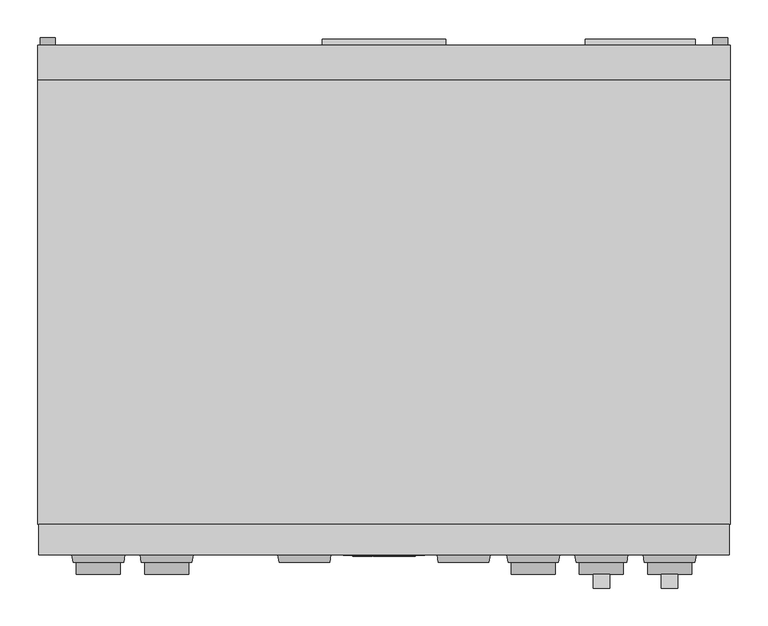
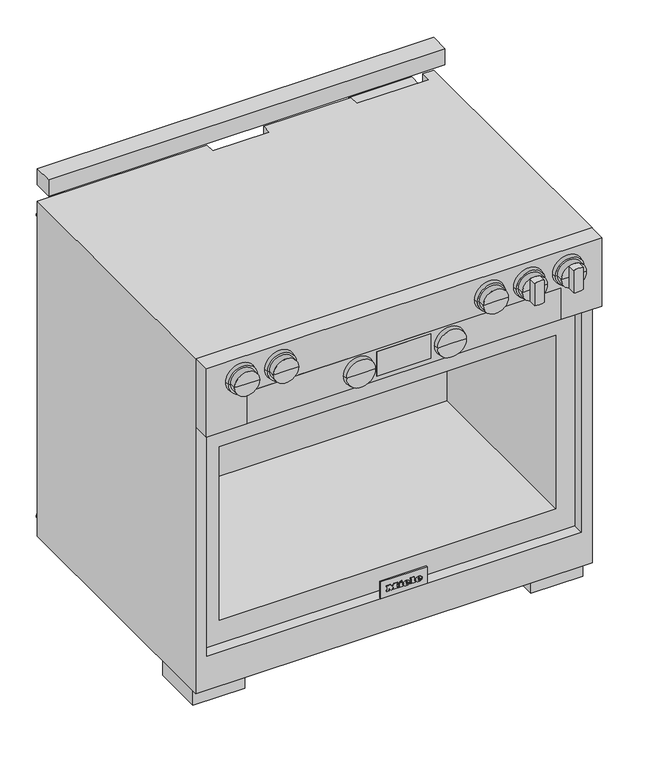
"""IFC4 building model written with IfcOpenShell, lengths in millimetres: proxy geometry, 11791450_USA_HR1135-3G_EDST-CLST : 25113581_USA_11791450_HR1135-3G_EDST-CLST."""

from ifc_helpers import new_model, si_unit, point, frame, frame_2d, origin, origin_with_axes, place, context, project, spatial, polyline, circle_curve, ellipse_curve, trimmed, segment, composite_curve, outline, extrude, faceted_brep, source, transform, mapped, element, save
from ifc_brep_helpers import plane_surface, cylinder_surface, revolved_surface, extruded_surface, advanced_brep


def specialty_equipment_633da77a(model_context):
    return source(origin(), model_context, "Body", "SolidModel", [
        extrude(outline(composite_curve([segment(trimmed(circle_curve(frame_2d((813.0, 287.0)), 29.0), [point((786.1671843, 276.0))], [point((786.1671843, 298.0))], False, "CARTESIAN"), True, "CONTINUOUS"), segment(polyline([(786.1671843, 298.0), (839.8328157, 298.0)]), True, "CONTINUOUS"), segment(trimmed(circle_curve(frame_2d((813.0, 287.0)), 29.0), [point((839.8328157, 298.0))], [point((839.8328157, 276.0))], False, "CARTESIAN"), True, "CONTINUOUS"), segment(polyline([(839.8328157, 276.0), (786.1671843, 276.0)]), True, "CONTINUOUS")], self_intersect=False)), frame((0.0, -717.0, 0.0), z_axis=(0.0, 1.0, 0.0), x_axis=(0.0, 0.0, 1.0)), (0.0, 0.0, 1.0), 18.0),
        advanced_brep(
        [(-377.0, -683.0, 813.0), (-348.0, -683.0, 813.0), (-406.0, -683.0, 813.0), (-406.0, -699.0, 813.0), (-348.0, -699.0, 813.0), (-377.0, -699.0, 813.0)],
        [
            (0, 1),
            (1, 2, circle_curve(frame((-377.0, -683.0, 813.0), z_axis=(0.0, 1.0, 0.0), x_axis=(1.0, 0.0, 0.0)), 29.0)),
            (2, 0),
            (2, 1, circle_curve(frame((-377.0, -683.0, 813.0), z_axis=(0.0, 1.0, 0.0), x_axis=(1.0, 0.0, 0.0)), 29.0)),
            (3, 4, circle_curve(frame((-377.0, -699.0, 813.0), z_axis=(0.0, -1.0, 0.0), x_axis=(1.0, 0.0, 0.0)), 29.0)),
            (4, 5),
            (5, 3),
            (4, 3, circle_curve(frame((-377.0, -699.0, 813.0), z_axis=(0.0, -1.0, 0.0), x_axis=(1.0, 0.0, 0.0)), 29.0)),
            (1, 4),
            (3, 2),
        ],
        [
            plane_surface(frame((-377.0, -683.0, 813.0), z_axis=(0.0, 1.0, 0.0), x_axis=(1.0, 0.0, 0.0))),
            plane_surface(frame((-377.0, -699.0, 813.0), z_axis=(0.0, -1.0, 0.0), x_axis=(1.0, 0.0, 0.0))),
            cylinder_surface(frame((-377.0, 751.3738435, 813.0), z_axis=(0.0, 1.0, 0.0), x_axis=(1.0, 0.0, 0.0)), 29.0),
        ],
        [
            (0, [[1, 2, 3]]),
            (0, [[-3, 4, -1]]),
            (1, [[5, 6, 7]]),
            (1, [[8, -7, -6]]),
            (2, [[-2, 9, -5, 10]]),
            (2, [[-4, -10, -8, -9]]),
        ],
    ),
        advanced_brep(
        [(-287.0, -683.0, 813.0), (-258.0, -683.0, 813.0), (-316.0, -683.0, 813.0), (-316.0, -699.0, 813.0), (-258.0, -699.0, 813.0), (-287.0, -699.0, 813.0)],
        [
            (0, 1),
            (1, 2, circle_curve(frame((-287.0, -683.0, 813.0), z_axis=(0.0, 1.0, 0.0), x_axis=(1.0, 0.0, 0.0)), 29.0)),
            (2, 0),
            (2, 1, circle_curve(frame((-287.0, -683.0, 813.0), z_axis=(0.0, 1.0, 0.0), x_axis=(1.0, 0.0, 0.0)), 29.0)),
            (3, 4, circle_curve(frame((-287.0, -699.0, 813.0), z_axis=(0.0, -1.0, 0.0), x_axis=(1.0, 0.0, 0.0)), 29.0)),
            (4, 5),
            (5, 3),
            (4, 3, circle_curve(frame((-287.0, -699.0, 813.0), z_axis=(0.0, -1.0, 0.0), x_axis=(1.0, 0.0, 0.0)), 29.0)),
            (1, 4),
            (3, 2),
        ],
        [
            plane_surface(frame((-287.0, -683.0, 813.0), z_axis=(0.0, 1.0, 0.0), x_axis=(1.0, 0.0, 0.0))),
            plane_surface(frame((-287.0, -699.0, 813.0), z_axis=(0.0, -1.0, 0.0), x_axis=(1.0, 0.0, 0.0))),
            cylinder_surface(frame((-287.0, 751.3738435, 813.0), z_axis=(0.0, 1.0, 0.0), x_axis=(1.0, 0.0, 0.0)), 29.0),
        ],
        [
            (0, [[1, 2, 3]]),
            (0, [[-3, 4, -1]]),
            (1, [[5, 6, 7]]),
            (1, [[8, -7, -6]]),
            (2, [[-2, 9, -5, 10]]),
            (2, [[-4, -10, -8, -9]]),
        ],
    ),
        advanced_brep(
        [(197.0, -683.0, 813.0), (226.0, -683.0, 813.0), (168.0, -683.0, 813.0), (168.0, -699.0, 813.0), (226.0, -699.0, 813.0), (197.0, -699.0, 813.0)],
        [
            (0, 1),
            (1, 2, circle_curve(frame((197.0, -683.0, 813.0), z_axis=(0.0, 1.0, 0.0), x_axis=(1.0, 0.0, 0.0)), 29.0)),
            (2, 0),
            (2, 1, circle_curve(frame((197.0, -683.0, 813.0), z_axis=(0.0, 1.0, 0.0), x_axis=(1.0, 0.0, 0.0)), 29.0)),
            (3, 4, circle_curve(frame((197.0, -699.0, 813.0), z_axis=(0.0, -1.0, 0.0), x_axis=(1.0, 0.0, 0.0)), 29.0)),
            (4, 5),
            (5, 3),
            (4, 3, circle_curve(frame((197.0, -699.0, 813.0), z_axis=(0.0, -1.0, 0.0), x_axis=(1.0, 0.0, 0.0)), 29.0)),
            (1, 4),
            (3, 2),
        ],
        [
            plane_surface(frame((197.0, -683.0, 813.0), z_axis=(0.0, 1.0, 0.0), x_axis=(1.0, 0.0, 0.0))),
            plane_surface(frame((197.0, -699.0, 813.0), z_axis=(0.0, -1.0, 0.0), x_axis=(1.0, 0.0, 0.0))),
            cylinder_surface(frame((197.0, 751.3738435, 813.0), z_axis=(0.0, 1.0, 0.0), x_axis=(1.0, 0.0, 0.0)), 29.0),
        ],
        [
            (0, [[1, 2, 3]]),
            (0, [[-3, 4, -1]]),
            (1, [[5, 6, 7]]),
            (1, [[8, -7, -6]]),
            (2, [[-2, 9, -5, 10]]),
            (2, [[-4, -10, -8, -9]]),
        ],
    ),
        advanced_brep(
        [(287.0, -683.0, 813.0), (316.0, -683.0, 813.0), (258.0, -683.0, 813.0), (258.0, -699.0, 813.0), (316.0, -699.0, 813.0), (287.0, -699.0, 813.0)],
        [
            (0, 1),
            (1, 2, circle_curve(frame((287.0, -683.0, 813.0), z_axis=(0.0, 1.0, 0.0), x_axis=(1.0, 0.0, 0.0)), 29.0)),
            (2, 0),
            (2, 1, circle_curve(frame((287.0, -683.0, 813.0), z_axis=(0.0, 1.0, 0.0), x_axis=(1.0, 0.0, 0.0)), 29.0)),
            (3, 4, circle_curve(frame((287.0, -699.0, 813.0), z_axis=(0.0, -1.0, 0.0), x_axis=(1.0, 0.0, 0.0)), 29.0)),
            (4, 5),
            (5, 3),
            (4, 3, circle_curve(frame((287.0, -699.0, 813.0), z_axis=(0.0, -1.0, 0.0), x_axis=(1.0, 0.0, 0.0)), 29.0)),
            (1, 4),
            (3, 2),
        ],
        [
            plane_surface(frame((287.0, -683.0, 813.0), z_axis=(0.0, 1.0, 0.0), x_axis=(1.0, 0.0, 0.0))),
            plane_surface(frame((287.0, -699.0, 813.0), z_axis=(0.0, -1.0, 0.0), x_axis=(1.0, 0.0, 0.0))),
            cylinder_surface(frame((287.0, 751.3738435, 813.0), z_axis=(0.0, 1.0, 0.0), x_axis=(1.0, 0.0, 0.0)), 29.0),
        ],
        [
            (0, [[1, 2, 3]]),
            (0, [[-3, 4, -1]]),
            (1, [[5, 6, 7]]),
            (1, [[8, -7, -6]]),
            (2, [[-2, 9, -5, 10]]),
            (2, [[-4, -10, -8, -9]]),
        ],
    ),
        extrude(outline(composite_curve([segment(polyline([(786.1671843, 388.0), (839.8328157, 388.0)]), True, "CONTINUOUS"), segment(trimmed(circle_curve(frame_2d((813.0, 377.0)), 29.0), [point((839.8328157, 388.0))], [point((839.8328157, 366.0))], False, "CARTESIAN"), True, "CONTINUOUS"), segment(polyline([(839.8328157, 366.0), (786.1671843, 366.0)]), True, "CONTINUOUS"), segment(trimmed(circle_curve(frame_2d((813.0, 377.0)), 29.0), [point((786.1671843, 366.0))], [point((786.1671843, 388.0))], False, "CARTESIAN"), True, "CONTINUOUS")], self_intersect=False)), frame((0.0, -717.0, 0.0), z_axis=(0.0, 1.0, 0.0), x_axis=(0.0, 0.0, 1.0)), (0.0, 0.0, 1.0), 18.0),
        advanced_brep(
        [(377.0, -683.0, 813.0), (406.0, -683.0, 813.0), (348.0, -683.0, 813.0), (348.0, -699.0, 813.0), (406.0, -699.0, 813.0), (377.0, -699.0, 813.0)],
        [
            (0, 1),
            (1, 2, circle_curve(frame((377.0, -683.0, 813.0), z_axis=(0.0, 1.0, 0.0), x_axis=(1.0, 0.0, 0.0)), 29.0)),
            (2, 0),
            (2, 1, circle_curve(frame((377.0, -683.0, 813.0), z_axis=(0.0, 1.0, 0.0), x_axis=(1.0, 0.0, 0.0)), 29.0)),
            (3, 4, circle_curve(frame((377.0, -699.0, 813.0), z_axis=(0.0, -1.0, 0.0), x_axis=(1.0, 0.0, 0.0)), 29.0)),
            (4, 5),
            (5, 3),
            (4, 3, circle_curve(frame((377.0, -699.0, 813.0), z_axis=(0.0, -1.0, 0.0), x_axis=(1.0, 0.0, 0.0)), 29.0)),
            (1, 4),
            (3, 2),
        ],
        [
            plane_surface(frame((377.0, -683.0, 813.0), z_axis=(0.0, 1.0, 0.0), x_axis=(1.0, 0.0, 0.0))),
            plane_surface(frame((377.0, -699.0, 813.0), z_axis=(0.0, -1.0, 0.0), x_axis=(1.0, 0.0, 0.0))),
            cylinder_surface(frame((377.0, 751.3738435, 813.0), z_axis=(0.0, 1.0, 0.0), x_axis=(1.0, 0.0, 0.0)), 29.0),
        ],
        [
            (0, [[1, 2, 3]]),
            (0, [[-3, 4, -1]]),
            (1, [[5, 6, 7]]),
            (1, [[8, -7, -6]]),
            (2, [[-2, 9, -5, 10]]),
            (2, [[-4, -10, -8, -9]]),
        ],
    ),
        extrude(outline(polyline([(-62.5, -671.0), (62.5, -671.0), (62.5, -672.0), (-62.5, -672.0), (-62.5, -671.0)])), frame((0.0, 0.0, 705.0), z_axis=(0.0, 0.0, 1.0), x_axis=(1.0, 0.0, 0.0)), (0.0, 0.0, 1.0), 60.0),
        extrude(outline(polyline([(772.0, 363.0), (772.0, -363.0), (695.0, -363.0), (695.0, 363.0), (772.0, 363.0)]), holes=[polyline([(765.0, 62.5), (705.0, 62.5), (705.0, -62.5), (765.0, -62.5), (765.0, 62.5)])]), frame((0.0, -672.5, 0.0), z_axis=(0.0, 1.0, 0.0), x_axis=(0.0, 0.0, 1.0)), (0.0, 0.0, 1.0), 5.8),
        faceted_brep([(456.0, -673.0, 862.0), (-456.0, -673.0, 862.0), (-456.0, -673.0, 695.0), (-363.0, -673.0, 695.0), (-363.0, -673.0, 772.0), (363.0, -673.0, 772.0), (363.0, -673.0, 695.0), (456.0, -673.0, 695.0), (456.0, -633.0, 862.0), (456.0, -633.0, 695.0), (-456.0, -633.0, 695.0), (-456.0, -633.0, 862.0), (363.0, -666.7, 695.0), (-363.0, -666.7, 695.0), (363.0, -666.7, 772.0), (-363.0, -666.7, 772.0)], [[[0, 1, 2, 3, 4, 5, 6, 7]], [[8, 9, 10, 11]], [[0, 7, 9, 8]], [[10, 9, 7, 6, 12, 13, 3, 2]], [[2, 1, 11, 10]], [[1, 0, 8, 11]], [[14, 15, 13, 12]], [[14, 12, 6, 5]], [[13, 15, 4, 3]], [[15, 14, 5, 4]]]),
        advanced_brep(
        [(-138.2367302, -683.0, 733.0), (-71.7632698, -683.0, 733.0), (-105.0, -683.0, 733.0), (-140.0, -673.0, 733.0), (-70.0, -673.0, 733.0), (-105.0, -673.0, 733.0)],
        [
            (0, 1, circle_curve(frame((-105.0, -683.0, 733.0), z_axis=(0.0, -1.0, 0.0), x_axis=(1.0, 0.0, 0.0)), 33.2367302)),
            (1, 2),
            (2, 0),
            (1, 0, circle_curve(frame((-105.0, -683.0, 733.0), z_axis=(0.0, -1.0, 0.0), x_axis=(1.0, 0.0, 0.0)), 33.2367302)),
            (3, 4, circle_curve(frame((-105.0, -673.0, 733.0), z_axis=(0.0, -1.0, 0.0), x_axis=(1.0, 0.0, 0.0)), 35.0)),
            (4, 1),
            (0, 3),
            (4, 3, circle_curve(frame((-105.0, -673.0, 733.0), z_axis=(0.0, -1.0, 0.0), x_axis=(1.0, 0.0, 0.0)), 35.0)),
            (5, 4),
            (3, 5),
        ],
        [
            plane_surface(frame((-105.0, -683.0, 733.0), z_axis=(0.0, -1.0, 0.0), x_axis=(1.0, 0.0, 0.0))),
            revolved_surface(polyline([(-71.7632698, -683.0, 733.0), (-70.0, -673.0, 733.0)]), (-105.0, 751.3738435, 733.0), (0.0, 1.0, 0.0)),
            plane_surface(frame((-105.0, -673.0, 733.0), z_axis=(0.0, 1.0, 0.0), x_axis=(1.0, 0.0, 0.0))),
        ],
        [
            (0, [[1, 2, 3]]),
            (0, [[4, -3, -2]]),
            (1, [[5, 6, -1, 7]]),
            (1, [[8, -7, -4, -6]]),
            (2, [[9, -5, 10]]),
            (2, [[-10, -8, -9]]),
        ],
    ),
        advanced_brep(
        [(71.7632698, -683.0, 733.0), (138.2367302, -683.0, 733.0), (105.0, -683.0, 733.0), (70.0, -673.0, 733.0), (140.0, -673.0, 733.0), (105.0, -673.0, 733.0)],
        [
            (0, 1, circle_curve(frame((105.0, -683.0, 733.0), z_axis=(0.0, -1.0, 0.0), x_axis=(1.0, 0.0, 0.0)), 33.2367302)),
            (1, 2),
            (2, 0),
            (1, 0, circle_curve(frame((105.0, -683.0, 733.0), z_axis=(0.0, -1.0, 0.0), x_axis=(1.0, 0.0, 0.0)), 33.2367302)),
            (3, 4, circle_curve(frame((105.0, -673.0, 733.0), z_axis=(0.0, -1.0, 0.0), x_axis=(1.0, 0.0, 0.0)), 35.0)),
            (4, 1),
            (0, 3),
            (4, 3, circle_curve(frame((105.0, -673.0, 733.0), z_axis=(0.0, -1.0, 0.0), x_axis=(1.0, 0.0, 0.0)), 35.0)),
            (5, 4),
            (3, 5),
        ],
        [
            plane_surface(frame((105.0, -683.0, 733.0), z_axis=(0.0, -1.0, 0.0), x_axis=(1.0, 0.0, 0.0))),
            revolved_surface(polyline([(138.2367302, -683.0, 733.0), (140.0, -673.0, 733.0)]), (105.0, 751.3738435, 733.0), (0.0, 1.0, 0.0)),
            plane_surface(frame((105.0, -673.0, 733.0), z_axis=(0.0, 1.0, 0.0), x_axis=(1.0, 0.0, 0.0))),
        ],
        [
            (0, [[1, 2, 3]]),
            (0, [[4, -3, -2]]),
            (1, [[5, 6, -1, 7]]),
            (1, [[8, -7, -4, -6]]),
            (2, [[9, -5, 10]]),
            (2, [[-10, -8, -9]]),
        ],
    ),
        advanced_brep(
        [(-410.2367302, -683.0, 813.0), (-343.7632698, -683.0, 813.0), (-377.0, -683.0, 813.0), (-412.0, -673.0, 813.0), (-342.0, -673.0, 813.0), (-377.0, -673.0, 813.0)],
        [
            (0, 1, circle_curve(frame((-377.0, -683.0, 813.0), z_axis=(0.0, -1.0, 0.0), x_axis=(1.0, 0.0, 0.0)), 33.2367302)),
            (1, 2),
            (2, 0),
            (1, 0, circle_curve(frame((-377.0, -683.0, 813.0), z_axis=(0.0, -1.0, 0.0), x_axis=(1.0, 0.0, 0.0)), 33.2367302)),
            (3, 4, circle_curve(frame((-377.0, -673.0, 813.0), z_axis=(0.0, -1.0, 0.0), x_axis=(1.0, 0.0, 0.0)), 35.0)),
            (4, 1),
            (0, 3),
            (4, 3, circle_curve(frame((-377.0, -673.0, 813.0), z_axis=(0.0, -1.0, 0.0), x_axis=(1.0, 0.0, 0.0)), 35.0)),
            (5, 4),
            (3, 5),
        ],
        [
            plane_surface(frame((-377.0, -683.0, 813.0), z_axis=(0.0, -1.0, 0.0), x_axis=(1.0, 0.0, 0.0))),
            revolved_surface(polyline([(-343.7632698, -683.0, 813.0), (-342.0, -673.0, 813.0)]), (-377.0, 751.3738435, 813.0), (0.0, 1.0, 0.0)),
            plane_surface(frame((-377.0, -673.0, 813.0), z_axis=(0.0, 1.0, 0.0), x_axis=(1.0, 0.0, 0.0))),
        ],
        [
            (0, [[1, 2, 3]]),
            (0, [[4, -3, -2]]),
            (1, [[5, 6, -1, 7]]),
            (1, [[8, -7, -4, -6]]),
            (2, [[9, -5, 10]]),
            (2, [[-10, -8, -9]]),
        ],
    ),
        advanced_brep(
        [(-320.2367302, -683.0, 813.0), (-253.7632698, -683.0, 813.0), (-287.0, -683.0, 813.0), (-322.0, -673.0, 813.0), (-252.0, -673.0, 813.0), (-287.0, -673.0, 813.0)],
        [
            (0, 1, circle_curve(frame((-287.0, -683.0, 813.0), z_axis=(0.0, -1.0, 0.0), x_axis=(1.0, 0.0, 0.0)), 33.2367302)),
            (1, 2),
            (2, 0),
            (1, 0, circle_curve(frame((-287.0, -683.0, 813.0), z_axis=(0.0, -1.0, 0.0), x_axis=(1.0, 0.0, 0.0)), 33.2367302)),
            (3, 4, circle_curve(frame((-287.0, -673.0, 813.0), z_axis=(0.0, -1.0, 0.0), x_axis=(1.0, 0.0, 0.0)), 35.0)),
            (4, 1),
            (0, 3),
            (4, 3, circle_curve(frame((-287.0, -673.0, 813.0), z_axis=(0.0, -1.0, 0.0), x_axis=(1.0, 0.0, 0.0)), 35.0)),
            (5, 4),
            (3, 5),
        ],
        [
            plane_surface(frame((-287.0, -683.0, 813.0), z_axis=(0.0, -1.0, 0.0), x_axis=(1.0, 0.0, 0.0))),
            revolved_surface(polyline([(-253.7632698, -683.0, 813.0), (-252.0, -673.0, 813.0)]), (-287.0, 751.3738435, 813.0), (0.0, 1.0, 0.0)),
            plane_surface(frame((-287.0, -673.0, 813.0), z_axis=(0.0, 1.0, 0.0), x_axis=(1.0, 0.0, 0.0))),
        ],
        [
            (0, [[1, 2, 3]]),
            (0, [[4, -3, -2]]),
            (1, [[5, 6, -1, 7]]),
            (1, [[8, -7, -4, -6]]),
            (2, [[9, -5, 10]]),
            (2, [[-10, -8, -9]]),
        ],
    ),
        advanced_brep(
        [(163.7632698, -683.0, 813.0), (230.2367302, -683.0, 813.0), (197.0, -683.0, 813.0), (162.0, -673.0, 813.0), (232.0, -673.0, 813.0), (197.0, -673.0, 813.0)],
        [
            (0, 1, circle_curve(frame((197.0, -683.0, 813.0), z_axis=(0.0, -1.0, 0.0), x_axis=(1.0, 0.0, 0.0)), 33.2367302)),
            (1, 2),
            (2, 0),
            (1, 0, circle_curve(frame((197.0, -683.0, 813.0), z_axis=(0.0, -1.0, 0.0), x_axis=(1.0, 0.0, 0.0)), 33.2367302)),
            (3, 4, circle_curve(frame((197.0, -673.0, 813.0), z_axis=(0.0, -1.0, 0.0), x_axis=(1.0, 0.0, 0.0)), 35.0)),
            (4, 1),
            (0, 3),
            (4, 3, circle_curve(frame((197.0, -673.0, 813.0), z_axis=(0.0, -1.0, 0.0), x_axis=(1.0, 0.0, 0.0)), 35.0)),
            (5, 4),
            (3, 5),
        ],
        [
            plane_surface(frame((197.0, -683.0, 813.0), z_axis=(0.0, -1.0, 0.0), x_axis=(1.0, 0.0, 0.0))),
            revolved_surface(polyline([(230.2367302, -683.0, 813.0), (232.0, -673.0, 813.0)]), (197.0, 751.3738435, 813.0), (0.0, 1.0, 0.0)),
            plane_surface(frame((197.0, -673.0, 813.0), z_axis=(0.0, 1.0, 0.0), x_axis=(1.0, 0.0, 0.0))),
        ],
        [
            (0, [[1, 2, 3]]),
            (0, [[4, -3, -2]]),
            (1, [[5, 6, -1, 7]]),
            (1, [[8, -7, -4, -6]]),
            (2, [[9, -5, 10]]),
            (2, [[-10, -8, -9]]),
        ],
    ),
        advanced_brep(
        [(253.7632698, -683.0, 813.0), (320.2367302, -683.0, 813.0), (287.0, -683.0, 813.0), (252.0, -673.0, 813.0), (322.0, -673.0, 813.0), (287.0, -673.0, 813.0)],
        [
            (0, 1, circle_curve(frame((287.0, -683.0, 813.0), z_axis=(0.0, -1.0, 0.0), x_axis=(1.0, 0.0, 0.0)), 33.2367302)),
            (1, 2),
            (2, 0),
            (1, 0, circle_curve(frame((287.0, -683.0, 813.0), z_axis=(0.0, -1.0, 0.0), x_axis=(1.0, 0.0, 0.0)), 33.2367302)),
            (3, 4, circle_curve(frame((287.0, -673.0, 813.0), z_axis=(0.0, -1.0, 0.0), x_axis=(1.0, 0.0, 0.0)), 35.0)),
            (4, 1),
            (0, 3),
            (4, 3, circle_curve(frame((287.0, -673.0, 813.0), z_axis=(0.0, -1.0, 0.0), x_axis=(1.0, 0.0, 0.0)), 35.0)),
            (5, 4),
            (3, 5),
        ],
        [
            plane_surface(frame((287.0, -683.0, 813.0), z_axis=(0.0, -1.0, 0.0), x_axis=(1.0, 0.0, 0.0))),
            revolved_surface(polyline([(320.2367302, -683.0, 813.0), (322.0, -673.0, 813.0)]), (287.0, 751.3738435, 813.0), (0.0, 1.0, 0.0)),
            plane_surface(frame((287.0, -673.0, 813.0), z_axis=(0.0, 1.0, 0.0), x_axis=(1.0, 0.0, 0.0))),
        ],
        [
            (0, [[1, 2, 3]]),
            (0, [[4, -3, -2]]),
            (1, [[5, 6, -1, 7]]),
            (1, [[8, -7, -4, -6]]),
            (2, [[9, -5, 10]]),
            (2, [[-10, -8, -9]]),
        ],
    ),
        advanced_brep(
        [(343.7632698, -683.0, 813.0), (410.2367302, -683.0, 813.0), (377.0, -683.0, 813.0), (342.0, -673.0, 813.0), (412.0, -673.0, 813.0), (377.0, -673.0, 813.0)],
        [
            (0, 1, circle_curve(frame((377.0, -683.0, 813.0), z_axis=(0.0, -1.0, 0.0), x_axis=(1.0, 0.0, 0.0)), 33.2367302)),
            (1, 2),
            (2, 0),
            (1, 0, circle_curve(frame((377.0, -683.0, 813.0), z_axis=(0.0, -1.0, 0.0), x_axis=(1.0, 0.0, 0.0)), 33.2367302)),
            (3, 4, circle_curve(frame((377.0, -673.0, 813.0), z_axis=(0.0, -1.0, 0.0), x_axis=(1.0, 0.0, 0.0)), 35.0)),
            (4, 1),
            (0, 3),
            (4, 3, circle_curve(frame((377.0, -673.0, 813.0), z_axis=(0.0, -1.0, 0.0), x_axis=(1.0, 0.0, 0.0)), 35.0)),
            (5, 4),
            (3, 5),
        ],
        [
            plane_surface(frame((377.0, -683.0, 813.0), z_axis=(0.0, -1.0, 0.0), x_axis=(1.0, 0.0, 0.0))),
            revolved_surface(polyline([(410.2367302, -683.0, 813.0), (412.0, -673.0, 813.0)]), (377.0, 751.3738435, 813.0), (0.0, 1.0, 0.0)),
            plane_surface(frame((377.0, -673.0, 813.0), z_axis=(0.0, 1.0, 0.0), x_axis=(1.0, 0.0, 0.0))),
        ],
        [
            (0, [[1, 2, 3]]),
            (0, [[4, -3, -2]]),
            (1, [[5, 6, -1, 7]]),
            (1, [[8, -7, -4, -6]]),
            (2, [[9, -5, 10]]),
            (2, [[-10, -8, -9]]),
        ],
    ),
        extrude(outline(composite_curve([segment(trimmed(circle_curve(frame_2d((822.0, 444.0)), 10.0), [point((822.0, 454.0))], [point((822.0, 434.0))], False, "CARTESIAN"), True, "CONTINUOUS"), segment(trimmed(circle_curve(frame_2d((822.0, 444.0)), 10.0), [point((822.0, 434.0))], [point((822.0, 454.0))], False, "CARTESIAN"), True, "CONTINUOUS")], self_intersect=False)), frame((0.0, 0.0, 0.0), z_axis=(0.0, 1.0, 0.0), x_axis=(0.0, 0.0, 1.0)), (0.0, 0.0, 1.0), 10.0),
        extrude(outline(composite_curve([segment(trimmed(circle_curve(frame_2d((87.0, 444.0)), 10.0), [point((87.0, 454.0))], [point((87.0, 434.0))], False, "CARTESIAN"), True, "CONTINUOUS"), segment(trimmed(circle_curve(frame_2d((87.0, 444.0)), 10.0), [point((87.0, 434.0))], [point((87.0, 454.0))], False, "CARTESIAN"), True, "CONTINUOUS")], self_intersect=False)), frame((0.0, 0.0, 0.0), z_axis=(0.0, 1.0, 0.0), x_axis=(0.0, 0.0, 1.0)), (0.0, 0.0, 1.0), 10.0),
        extrude(outline(composite_curve([segment(trimmed(circle_curve(frame_2d((822.0, -444.0)), 10.0), [point((822.0, -434.0))], [point((822.0, -454.0))], False, "CARTESIAN"), True, "CONTINUOUS"), segment(trimmed(circle_curve(frame_2d((822.0, -444.0)), 10.0), [point((822.0, -454.0))], [point((822.0, -434.0))], False, "CARTESIAN"), True, "CONTINUOUS")], self_intersect=False)), frame((0.0, 0.0, 0.0), z_axis=(0.0, 1.0, 0.0), x_axis=(0.0, 0.0, 1.0)), (0.0, 0.0, 1.0), 10.0),
        extrude(outline(composite_curve([segment(trimmed(circle_curve(frame_2d((87.0, -444.0)), 10.0), [point((87.0, -434.0))], [point((87.0, -454.0))], False, "CARTESIAN"), True, "CONTINUOUS"), segment(trimmed(circle_curve(frame_2d((87.0, -444.0)), 10.0), [point((87.0, -454.0))], [point((87.0, -434.0))], False, "CARTESIAN"), True, "CONTINUOUS")], self_intersect=False)), frame((0.0, 0.0, 0.0), z_axis=(0.0, 1.0, 0.0), x_axis=(0.0, 0.0, 1.0)), (0.0, 0.0, 1.0), 10.0),
        extrude(outline(polyline([(266.0, 8.0), (411.0, 8.0), (411.0, -23.0), (266.0, -23.0), (266.0, 8.0)])), frame((0.0, 0.0, 742.0), z_axis=(0.0, 0.0, 1.0), x_axis=(1.0, 0.0, 0.0)), (0.0, 0.0, 1.0), 115.0),
        extrude(outline(polyline([(-81.5, 8.0), (81.5, 8.0), (81.5, 0.0), (-81.5, 0.0), (-81.5, 8.0)])), frame((0.0, 0.0, 559.0), z_axis=(0.0, 0.0, 1.0), x_axis=(1.0, 0.0, 0.0)), (0.0, 0.0, 1.0), 237.0),
        extrude(outline(composite_curve([segment(trimmed(circle_curve(frame_2d((-152.0, 39.6862697)), 39.6862697), [point((-112.6710759, 45.0))], [point((-191.3289241, 45.0))], False, "CARTESIAN"), True, "CONTINUOUS"), segment(polyline([(-191.3289241, 45.0), (-112.6710759, 45.0)]), True, "CONTINUOUS")], self_intersect=False)), frame((282.0, 0.0, 0.0), z_axis=(1.0, 0.0, 0.0), x_axis=(0.0, 1.0, 0.0)), (0.0, 0.0, 1.0), 28.0),
        extrude(outline(composite_curve([segment(polyline([(-366.0009008, -40.0), (-367.2635363, -40.0), (-367.0191787, -38.9415709), (-366.8778726, -34.1117735)]), True, "CONTINUOUS"), segment(trimmed(circle_curve(frame_2d((-365.387549, -34.1553762)), 1.4909613), [point((-366.8778726, -34.1117735))], [point((-365.6381402, -32.6856246))], False, "CARTESIAN"), True, "CONTINUOUS"), segment(trimmed(circle_curve(frame_2d((-364.1175682, -37.7832301)), 5.3195602), [point((-365.6381402, -32.6856246))], [point((-362.440667, -32.7348914))], False, "CARTESIAN"), True, "CONTINUOUS"), segment(polyline([(-362.440667, -32.7348914), (-361.3643767, -33.4338425), (-360.8177226, -34.6616478), (-362.0710839, -34.8155412), (-362.6628147, -33.9704619)]), True, "CONTINUOUS"), segment(trimmed(circle_curve(frame_2d((-363.889909, -36.6278559)), 2.9270297), [point((-362.6628147, -33.9704619))], [point((-365.335883, -34.0829271))], True, "CARTESIAN"), True, "CONTINUOUS"), segment(polyline([(-365.335883, -34.0829271), (-365.6819155, -35.289686), (-362.4250607, -35.9227545)]), True, "CONTINUOUS"), segment(trimmed(circle_curve(frame_2d((-362.8373847, -38.0439776)), 2.1609254), [point((-362.4250607, -35.9227545))], [point((-361.2872437, -39.5495212))], False, "CARTESIAN"), True, "CONTINUOUS"), segment(trimmed(circle_curve(frame_2d((-363.2230106, -36.6941434)), 3.4496922), [point((-361.2872437, -39.5495212))], [point((-364.4810512, -39.9062626))], False, "CARTESIAN"), True, "CONTINUOUS"), segment(polyline([(-364.4810512, -39.9062626), (-365.6943945, -39.0566705), (-366.0009008, -40.0)]), True, "CONTINUOUS")], self_intersect=False), holes=[composite_curve([segment(polyline([(-365.6808047, -36.7241112), (-365.4778117, -37.8753414), (-364.6808418, -38.5929363), (-363.3846505, -38.8921857)]), True, "CONTINUOUS"), segment(trimmed(circle_curve(frame_2d((-363.1641539, -37.9371101)), 0.980198), [point((-363.3846505, -38.8921857))], [point((-362.5826105, -37.148063))], True, "CARTESIAN"), True, "CONTINUOUS"), segment(polyline([(-362.5826105, -37.148063), (-363.683896, -36.9339948), (-365.6808047, -36.7241112)]), True, "CONTINUOUS")], self_intersect=False)]), frame((0.0, 0.0, 753.0), z_axis=(0.0, 0.0, 1.0), x_axis=(1.0, 0.0, 0.0)), (0.0, 0.0, 1.0), 1.0),
        extrude(outline(composite_curve([segment(polyline([(-369.4581842, -37.6489066), (-368.202206, -37.8031213), (-369.1593436, -39.5606642)]), True, "CONTINUOUS"), segment(trimmed(circle_curve(frame_2d((-371.3057471, -36.6354063)), 3.6282478), [point((-369.1593436, -39.5606642))], [point((-372.8962663, -39.8964538))], False, "CARTESIAN"), True, "CONTINUOUS"), segment(trimmed(circle_curve(frame_2d((-371.7731504, -37.593725)), 2.5620205), [point((-372.8962663, -39.8964538))], [point((-374.32893, -37.7724425))], False, "CARTESIAN"), True, "CONTINUOUS"), segment(trimmed(circle_curve(frame_2d((-372.617737, -37.6527843)), 1.7153715), [point((-374.32893, -37.7724425))], [point((-373.147816, -36.021369))], False, "CARTESIAN"), True, "CONTINUOUS"), segment(polyline([(-373.147816, -36.021369), (-371.3069947, -35.4232499), (-369.987673, -33.9770867)]), True, "CONTINUOUS"), segment(trimmed(circle_curve(frame_2d((-371.1408399, -36.351197)), 2.6393548), [point((-369.987673, -33.9770867))], [point((-372.2940069, -33.9770867))], True, "CARTESIAN"), True, "CONTINUOUS"), segment(polyline([(-372.2940069, -33.9770867), (-372.7553884, -34.6611129), (-374.0084996, -34.5072502), (-373.5756304, -33.3795875)]), True, "CONTINUOUS"), segment(trimmed(circle_curve(frame_2d((-370.9527143, -36.6576461)), 4.1982564), [point((-373.5756304, -33.3795875))], [point((-371.0505395, -32.4605295))], False, "CARTESIAN"), True, "CONTINUOUS"), segment(trimmed(circle_curve(frame_2d((-370.9805679, -35.4626064)), 3.0028922), [point((-371.0505395, -32.4605295))], [point((-368.5718203, -33.6694816))], False, "CARTESIAN"), True, "CONTINUOUS"), segment(trimmed(circle_curve(frame_2d((-370.4380028, -34.5301363)), 2.0550823), [point((-368.5718203, -33.6694816))], [point((-369.4341096, -36.323335))], False, "CARTESIAN"), True, "CONTINUOUS"), segment(polyline([(-369.4341096, -36.323335), (-371.3494535, -36.9828408), (-373.0597255, -37.9076387), (-372.6768706, -38.6156702)]), True, "CONTINUOUS"), segment(trimmed(circle_curve(frame_2d((-371.3695779, -35.6018954)), 3.2850956), [point((-372.6768706, -38.6156702))], [point((-370.0622852, -38.6156702))], True, "CARTESIAN"), True, "CONTINUOUS"), segment(polyline([(-370.0622852, -38.6156702), (-369.4581842, -37.6489066)]), True, "CONTINUOUS")], self_intersect=False)), frame((0.0, 0.0, 753.0), z_axis=(0.0, 0.0, 1.0), x_axis=(1.0, 0.0, 0.0)), (0.0, 0.0, 1.0), 1.0),
        extrude(outline(composite_curve([segment(polyline([(-359.0941465, -34.8216074), (-355.0193946, -34.8216074), (-355.0193946, -36.0727848), (-357.8300756, -36.0727848), (-357.8300756, -37.8953779), (-356.5547934, -38.5734575), (-354.8554891, -38.8730907)]), True, "CONTINUOUS"), segment(trimmed(circle_curve(frame_2d((-354.7763582, -35.1835188)), 3.6904203), [point((-354.8554891, -38.8730907))], [point((-351.0917956, -34.975672))], True, "CARTESIAN"), True, "CONTINUOUS"), segment(trimmed(circle_curve(frame_2d((-355.2742118, -35.2116028)), 4.1890654), [point((-351.0917956, -34.975672))], [point((-354.8924604, -31.0399683))], True, "CARTESIAN"), True, "CONTINUOUS"), segment(trimmed(circle_curve(frame_2d((-355.1434541, -33.7827322)), 2.7542243), [point((-354.8924604, -31.0399683))], [point((-357.2311401, -31.9862582))], True, "CARTESIAN"), True, "CONTINUOUS"), segment(polyline([(-357.2311401, -31.9862582), (-357.7913432, -33.1348449), (-358.9545959, -32.808521), (-358.2222817, -31.1459412)]), True, "CONTINUOUS"), segment(trimmed(circle_curve(frame_2d((-355.0056573, -34.3038983)), 4.5077007), [point((-358.2222817, -31.1459412))], [point((-354.8478593, -29.7989604))], False, "CARTESIAN"), True, "CONTINUOUS"), segment(trimmed(circle_curve(frame_2d((-355.0297107, -35.0029797)), 5.2071956), [point((-354.8478593, -29.7989604))], [point((-349.8225151, -35.0029797))], False, "CARTESIAN"), True, "CONTINUOUS"), segment(trimmed(circle_curve(frame_2d((-355.0187023, -34.9634409)), 5.1963376), [point((-349.8225151, -35.0029797))], [point((-355.0187023, -40.1597785))], False, "CARTESIAN"), True, "CONTINUOUS"), segment(polyline([(-355.0187023, -40.1597785), (-357.0821579, -39.7823822), (-359.0941465, -38.5734575), (-359.0941465, -34.8216074)]), True, "CONTINUOUS")], self_intersect=False)), frame((0.0, 0.0, 753.0), z_axis=(0.0, 0.0, 1.0), x_axis=(1.0, 0.0, 0.0)), (0.0, 0.0, 1.0), 1.0),
        extrude(outline(polyline([(246.4261097, -48.2846028), (239.1553153, -48.2846028), (239.1553153, -47.0259878), (245.1324687, -47.0259878), (245.1324687, -44.0398896), (239.4699511, -44.0398896), (239.4699511, -42.7868997), (245.1324687, -42.7868997), (245.1324687, -39.484481), (239.0234692, -39.484481), (239.0234692, -38.223126), (246.4261097, -38.223126), (246.4261097, -48.2846028)])), frame((0.0, 0.0, 101.0), z_axis=(0.0, 0.0, 1.0), x_axis=(1.0, 0.0, 0.0)), (0.0, 0.0, 1.0), 1.0),
        extrude(outline(polyline([(237.0939455, -48.2781045), (230.9083542, -48.2781045), (230.9083542, -47.0259878), (235.9083542, -47.0259878), (235.9083542, -38.223126), (237.0939455, -38.223126), (237.0939455, -48.2781045)])), frame((0.0, 0.0, 101.0), z_axis=(0.0, 0.0, 1.0), x_axis=(1.0, 0.0, 0.0)), (0.0, 0.0, 1.0), 1.0),
        extrude(outline(composite_curve([segment(trimmed(circle_curve(frame_2d((239.0, -44.0)), 7.5), [point((239.0, -51.5))], [point((239.0, -36.5))], False, "CARTESIAN"), True, "CONTINUOUS"), segment(trimmed(circle_curve(frame_2d((239.0, -44.0)), 7.5), [point((239.0, -36.5))], [point((239.0, -51.5))], False, "CARTESIAN"), True, "CONTINUOUS")], self_intersect=False)), frame((0.0, 0.0, 102.0), z_axis=(0.0, 0.0, 1.0), x_axis=(1.0, 0.0, 0.0)), (0.0, 0.0, 1.0), 30.0),
        extrude(outline(composite_curve([segment(trimmed(circle_curve(frame_2d((-362.0, -35.0)), 7.5), [point((-369.5, -35.0))], [point((-354.5, -35.0))], False, "CARTESIAN"), True, "CONTINUOUS"), segment(trimmed(circle_curve(frame_2d((-362.0, -35.0)), 7.5), [point((-354.5, -35.0))], [point((-369.5, -35.0))], False, "CARTESIAN"), True, "CONTINUOUS")], self_intersect=False)), frame((0.0, 0.0, 754.0), z_axis=(0.0, 0.0, 1.0), x_axis=(1.0, 0.0, 0.0)), (0.0, 0.0, 1.0), 30.0),
        faceted_brep([(-457.0, 0.0, 862.0), (-457.0, -633.0, 862.0), (457.0, -633.0, 862.0), (457.0, 0.0, 862.0), (432.0, 0.0, 862.0), (432.0, -23.0, 862.0), (266.0, -23.0, 862.0), (266.0, 0.0, 862.0), (65.0, 0.0, 862.0), (65.0, -23.0, 862.0), (-66.0, -23.0, 862.0), (-66.0, 0.0, 862.0), (457.0, 0.0, 45.0), (457.0, -633.0, 45.0), (-457.0, -633.0, 45.0), (-457.0, 0.0, 45.0), (-432.0, 0.0, 45.0), (-432.0, -75.0, 45.0), (432.0, -75.0, 45.0), (432.0, 0.0, 45.0), (266.0, 0.0, 132.0), (65.0, 0.0, 132.0), (-66.0, 0.0, 132.0), (-270.0, 0.0, 132.0), (-270.0, 0.0, 784.0), (-411.0, 0.0, 784.0), (-411.0, 0.0, 132.0), (-432.0, 0.0, 132.0), (432.0, -633.0, 695.0), (432.0, -633.0, 128.0), (-432.0, -633.0, 128.0), (-432.0, -633.0, 695.0), (432.0, -608.0, 695.0), (-432.0, -608.0, 695.0), (-432.0, -608.0, 128.0), (432.0, -608.0, 128.0), (388.0, -608.0, 608.0), (388.0, -608.0, 185.0), (-388.0, -608.0, 185.0), (-388.0, -608.0, 608.0), (388.0, -173.0, 608.0), (-388.0, -173.0, 608.0), (-388.0, -173.0, 185.0), (388.0, -173.0, 185.0), (432.0, -23.0, 132.0), (266.0, -23.0, 132.0), (65.0, -23.0, 132.0), (-66.0, -23.0, 132.0), (432.0, -75.0, 132.0), (-411.0, -69.0, 784.0), (-270.0, -69.0, 784.0), (-270.0, -69.0, 132.0), (-411.0, -69.0, 132.0), (-432.0, -75.0, 132.0)], [[[0, 1, 2, 3, 4, 5, 6, 7, 8, 9, 10, 11]], [[12, 13, 14, 15, 16, 17, 18, 19]], [[8, 7, 20, 21]], [[3, 12, 19, 4]], [[15, 0, 11, 22, 23, 24, 25, 26, 27, 16]], [[1, 0, 15, 14]], [[2, 1, 14, 13], [28, 29, 30, 31]], [[3, 2, 13, 12]], [[32, 33, 34, 35], [36, 37, 38, 39]], [[32, 35, 29, 28]], [[35, 34, 30, 29]], [[34, 33, 31, 30]], [[33, 32, 28, 31]], [[40, 41, 42, 43]], [[40, 43, 37, 36]], [[43, 42, 38, 37]], [[42, 41, 39, 38]], [[41, 40, 36, 39]], [[6, 5, 44, 45]], [[10, 9, 46, 47]], [[9, 8, 21, 46]], [[11, 10, 47, 22]], [[5, 4, 19, 18, 48, 44]], [[7, 6, 45, 20]], [[49, 50, 51, 52]], [[50, 49, 25, 24]], [[50, 24, 23, 51]], [[25, 49, 52, 26]], [[53, 48, 18, 17]], [[27, 53, 17, 16]], [[48, 53, 27, 26, 52, 51, 23, 22, 47, 46, 21, 20, 45, 44]]]),
        extrude(outline(composite_curve([segment(trimmed(circle_curve(frame_2d((-152.0, 39.6862697)), 39.6862697), [point((-112.6710759, 45.0))], [point((-191.3289241, 45.0))], False, "CARTESIAN"), True, "CONTINUOUS"), segment(polyline([(-191.3289241, 45.0), (-112.6710759, 45.0)]), True, "CONTINUOUS")], self_intersect=False)), frame((-310.0, 0.0, 0.0), z_axis=(1.0, 0.0, 0.0), x_axis=(0.0, 1.0, 0.0)), (0.0, 0.0, 1.0), 28.0),
        extrude(outline(polyline([(-330.0, -489.0), (-330.0, -609.0), (-450.0, -609.0), (-450.0, -489.0), (-330.0, -489.0)])), origin_with_axes(), (0.0, 0.0, 1.0), 45.0),
        extrude(outline(polyline([(450.0, -489.0), (450.0, -609.0), (330.0, -609.0), (330.0, -489.0), (450.0, -489.0)])), origin_with_axes(), (0.0, 0.0, 1.0), 45.0),
        advanced_brep(
        [(32.17, -675.0, 177.1995), (32.17, -675.0, 178.563), (41.2015, -675.0, 178.563), (25.4875, -675.0, 178.563), (29.2, -675.0, 174.0), (40.972, -675.0, 177.1995), (36.895, -675.0, 177.1995), (33.682, -675.0, 175.6875), (32.17, -675.0, 180.291), (32.17, -675.0, 181.7625), (34.4785, -675.0, 181.7625), (34.4785, -675.0, 180.291), (32.17, -674.0, 177.1995), (33.682, -674.0, 175.6875), (36.895, -674.0, 177.1995), (40.972, -674.0, 177.1995), (29.2, -674.0, 174.0), (25.4875, -674.0, 178.563), (41.2015, -674.0, 178.563), (32.17, -674.0, 178.563), (32.17, -674.0, 180.291), (34.4785, -674.0, 180.291), (34.4785, -674.0, 181.7625), (32.17, -674.0, 181.7625)],
        [
            (0, 1),
            (1, 2),
            (2, 3, ellipse_curve(frame((33.3445, -675.0, 178.563), z_axis=(0.0, -1.0, 0.0), x_axis=(-1.0, 0.0, 0.0)), 7.857, 6.4935)),
            (3, 4, circle_curve(frame((30.7120736, -675.0, 179.022), z_axis=(0.0, -1.0, 0.0), x_axis=(0.0, 0.0, -1.0)), 5.2446974)),
            (4, 5, circle_curve(frame((33.1872142, -675.0, 182.586), z_axis=(0.0, -1.0, 0.0), x_axis=(0.0, 0.0, -1.0)), 9.46664)),
            (5, 6),
            (6, 7, circle_curve(frame((34.3419118, -675.0, 178.455), z_axis=(0.0, 1.0, 0.0), x_axis=(0.0, 0.0, -1.0)), 2.8450905)),
            (7, 0, circle_curve(frame((33.682, -675.0, 177.1995), z_axis=(0.0, 1.0, 0.0), x_axis=(0.0, 0.0, -1.0)), 1.512)),
            (8, 9),
            (9, 10, circle_curve(frame((33.32425, -675.0, 181.7625), z_axis=(0.0, 1.0, 0.0), x_axis=(0.0, 0.0, -1.0)), 1.15425)),
            (10, 11),
            (11, 8),
            (12, 13, circle_curve(frame((33.682, -674.0, 177.1995), z_axis=(0.0, -1.0, 0.0), x_axis=(0.0, 0.0, -1.0)), 1.512)),
            (13, 14, circle_curve(frame((34.3419118, -674.0, 178.455), z_axis=(0.0, -1.0, 0.0), x_axis=(0.0, 0.0, -1.0)), 2.8450905)),
            (14, 15),
            (15, 16, circle_curve(frame((33.1872142, -674.0, 182.586), z_axis=(0.0, 1.0, 0.0), x_axis=(0.0, 0.0, -1.0)), 9.46664)),
            (16, 17, circle_curve(frame((30.7120736, -674.0, 179.022), z_axis=(0.0, 1.0, 0.0), x_axis=(0.0, 0.0, -1.0)), 5.2446974)),
            (17, 18, ellipse_curve(frame((33.3445, -674.0, 178.563), z_axis=(0.0, 1.0, 0.0), x_axis=(-1.0, 0.0, 0.0)), 7.857, 6.4935)),
            (18, 19),
            (19, 12),
            (20, 21),
            (21, 22),
            (22, 23, circle_curve(frame((33.32425, -674.0, 181.7625), z_axis=(0.0, -1.0, 0.0), x_axis=(0.0, 0.0, -1.0)), 1.15425)),
            (23, 20),
            (0, 12),
            (19, 1),
            (18, 2),
            (5, 15),
            (14, 6),
            (17, 3),
            (13, 7),
            (16, 4),
            (8, 20),
            (23, 9),
            (22, 10),
            (21, 11),
        ],
        [
            plane_surface(frame((32.17, -675.0, 178.563), z_axis=(0.0, -1.0, 0.0), x_axis=(0.0, 0.0, 1.0))),
            plane_surface(frame((32.17, -674.0, 178.563), z_axis=(0.0, 1.0, 0.0), x_axis=(0.0, 0.0, -1.0))),
            plane_surface(frame((32.17, -675.0, 177.1995), z_axis=(1.0, 0.0, 0.0), x_axis=(0.0, 1.0, 0.0))),
            plane_surface(frame((32.17, -675.0, 178.563), z_axis=(0.0, 0.0, -1.0), x_axis=(0.0, 1.0, 0.0))),
            plane_surface(frame((40.972, -675.0, 177.1995), z_axis=(0.0, 0.0, 1.0), x_axis=(0.0, 1.0, 0.0))),
            extruded_surface(trimmed(ellipse_curve(frame((33.3445, -673.0, 178.563), z_axis=(0.0, -1.0, 0.0), x_axis=(-1.0, 0.0, 0.0)), 7.857, 6.4935), [point((41.2015, -673.0, 178.563))], [point((25.4875, -673.0, 178.563))], True, "CARTESIAN"), (0.0, -1.0, 0.0), 1.0),
            revolved_surface(polyline([(34.3419118, -674.0, 175.60990950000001), (34.3419118, -675.0, 175.60990950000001)]), (34.3419118, -674.0, 178.455), (0.0, 1.0, 0.0)),
            revolved_surface(polyline([(33.682, -674.0, 175.6875), (33.682, -675.0, 175.6875)]), (33.682, -674.0, 177.1995), (0.0, 1.0, 0.0)),
            cylinder_surface(frame((30.7120736, -674.0, 179.022), z_axis=(0.0, -1.0, 0.0), x_axis=(0.0, 0.0, -1.0)), 5.2446974),
            cylinder_surface(frame((33.1872142, -674.0, 182.586), z_axis=(0.0, -1.0, 0.0), x_axis=(0.0, 0.0, -1.0)), 9.46664),
            plane_surface(frame((32.17, -675.0, 180.291), z_axis=(1.0, 0.0, 0.0), x_axis=(0.0, 1.0, 0.0))),
            revolved_surface(polyline([(33.32425, -674.0, 180.60825), (33.32425, -675.0, 180.60825)]), (33.32425, -674.0, 181.7625), (0.0, 1.0, 0.0)),
            plane_surface(frame((34.4785, -675.0, 181.7625), z_axis=(-1.0, 0.0, 0.0), x_axis=(0.0, 1.0, 0.0))),
            plane_surface(frame((34.4785, -675.0, 180.291), z_axis=(0.0, 0.0, 1.0), x_axis=(0.0, 1.0, 0.0))),
        ],
        [
            (0, [[1, 2, 3, 4, 5, 6, 7, 8], [9, 10, 11, 12]]),
            (1, [[13, 14, 15, 16, 17, 18, 19, 20], [21, 22, 23, 24]]),
            (2, [[-1, 25, -20, 26]]),
            (3, [[-2, -26, -19, 27]]),
            (4, [[-6, 28, -15, 29]]),
            (5, [[-3, -27, -18, 30]]),
            (6, [[-7, -29, -14, 31]]),
            (7, [[-8, -31, -13, -25]]),
            (8, [[-4, -30, -17, 32]]),
            (9, [[-5, -32, -16, -28]]),
            (10, [[-9, 33, -24, 34]]),
            (11, [[-10, -34, -23, 35]]),
            (12, [[-11, -35, -22, 36]]),
            (13, [[-12, -36, -21, -33]]),
        ],
    ),
        advanced_brep(
        [(3.9955, -675.0, 177.1995), (3.9955, -675.0, 178.563), (13.027, -675.0, 178.563), (-2.687, -675.0, 178.563), (1.0255, -675.0, 174.0), (12.7975, -675.0, 177.1995), (8.7205, -675.0, 177.1995), (5.5075, -675.0, 175.6875), (3.9955, -675.0, 180.291), (3.9955, -675.0, 181.7625), (6.304, -675.0, 181.7625), (6.304, -675.0, 180.291), (3.9955, -674.0, 177.1995), (5.5075, -674.0, 175.6875), (8.7205, -674.0, 177.1995), (12.7975, -674.0, 177.1995), (1.0255, -674.0, 174.0), (-2.687, -674.0, 178.563), (13.027, -674.0, 178.563), (3.9955, -674.0, 178.563), (3.9955, -674.0, 180.291), (6.304, -674.0, 180.291), (6.304, -674.0, 181.7625), (3.9955, -674.0, 181.7625)],
        [
            (0, 1),
            (1, 2),
            (2, 3, ellipse_curve(frame((5.17, -675.0, 178.563), z_axis=(0.0, -1.0, 0.0), x_axis=(-1.0, 0.0, 0.0)), 7.857, 6.4935)),
            (3, 4, circle_curve(frame((2.5375736, -675.0, 179.022), z_axis=(0.0, -1.0, 0.0), x_axis=(0.0, 0.0, -1.0)), 5.2446974)),
            (4, 5, circle_curve(frame((5.0127142, -675.0, 182.586), z_axis=(0.0, -1.0, 0.0), x_axis=(0.0, 0.0, -1.0)), 9.46664)),
            (5, 6),
            (6, 7, circle_curve(frame((6.1674118, -675.0, 178.455), z_axis=(0.0, 1.0, 0.0), x_axis=(0.0, 0.0, -1.0)), 2.8450905)),
            (7, 0, circle_curve(frame((5.5075, -675.0, 177.1995), z_axis=(0.0, 1.0, 0.0), x_axis=(0.0, 0.0, -1.0)), 1.512)),
            (8, 9),
            (9, 10, circle_curve(frame((5.14975, -675.0, 181.7625), z_axis=(0.0, 1.0, 0.0), x_axis=(0.0, 0.0, -1.0)), 1.15425)),
            (10, 11),
            (11, 8),
            (12, 13, circle_curve(frame((5.5075, -674.0, 177.1995), z_axis=(0.0, -1.0, 0.0), x_axis=(0.0, 0.0, -1.0)), 1.512)),
            (13, 14, circle_curve(frame((6.1674118, -674.0, 178.455), z_axis=(0.0, -1.0, 0.0), x_axis=(0.0, 0.0, -1.0)), 2.8450905)),
            (14, 15),
            (15, 16, circle_curve(frame((5.0127142, -674.0, 182.586), z_axis=(0.0, 1.0, 0.0), x_axis=(0.0, 0.0, -1.0)), 9.46664)),
            (16, 17, circle_curve(frame((2.5375736, -674.0, 179.022), z_axis=(0.0, 1.0, 0.0), x_axis=(0.0, 0.0, -1.0)), 5.2446974)),
            (17, 18, ellipse_curve(frame((5.17, -674.0, 178.563), z_axis=(0.0, 1.0, 0.0), x_axis=(-1.0, 0.0, 0.0)), 7.857, 6.4935)),
            (18, 19),
            (19, 12),
            (20, 21),
            (21, 22),
            (22, 23, circle_curve(frame((5.14975, -674.0, 181.7625), z_axis=(0.0, -1.0, 0.0), x_axis=(0.0, 0.0, -1.0)), 1.15425)),
            (23, 20),
            (0, 12),
            (19, 1),
            (18, 2),
            (5, 15),
            (14, 6),
            (17, 3),
            (13, 7),
            (16, 4),
            (8, 20),
            (23, 9),
            (22, 10),
            (21, 11),
        ],
        [
            plane_surface(frame((3.9955, -675.0, 178.563), z_axis=(0.0, -1.0, 0.0), x_axis=(0.0, 0.0, 1.0))),
            plane_surface(frame((3.9955, -674.0, 178.563), z_axis=(0.0, 1.0, 0.0), x_axis=(0.0, 0.0, -1.0))),
            plane_surface(frame((3.9955, -675.0, 177.1995), z_axis=(1.0, 0.0, 0.0), x_axis=(0.0, 1.0, 0.0))),
            plane_surface(frame((3.9955, -675.0, 178.563), z_axis=(0.0, 0.0, -1.0), x_axis=(0.0, 1.0, 0.0))),
            plane_surface(frame((12.7975, -675.0, 177.1995), z_axis=(0.0, 0.0, 1.0), x_axis=(0.0, 1.0, 0.0))),
            extruded_surface(trimmed(ellipse_curve(frame((5.17, -673.0, 178.563), z_axis=(0.0, -1.0, 0.0), x_axis=(-1.0, 0.0, 0.0)), 7.857, 6.4935), [point((13.027, -673.0, 178.563))], [point((-2.687, -673.0, 178.563))], True, "CARTESIAN"), (0.0, -1.0, 0.0), 1.0),
            revolved_surface(polyline([(6.1674118, -674.0, 175.60990950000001), (6.1674118, -675.0, 175.60990950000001)]), (6.1674118, -674.0, 178.455), (0.0, 1.0, 0.0)),
            revolved_surface(polyline([(5.5075, -674.0, 175.6875), (5.5075, -675.0, 175.6875)]), (5.5075, -674.0, 177.1995), (0.0, 1.0, 0.0)),
            cylinder_surface(frame((2.5375736, -674.0, 179.022), z_axis=(0.0, -1.0, 0.0), x_axis=(0.0, 0.0, -1.0)), 5.2446974),
            cylinder_surface(frame((5.0127142, -674.0, 182.586), z_axis=(0.0, -1.0, 0.0), x_axis=(0.0, 0.0, -1.0)), 9.46664),
            plane_surface(frame((3.9955, -675.0, 180.291), z_axis=(1.0, 0.0, 0.0), x_axis=(0.0, 1.0, 0.0))),
            revolved_surface(polyline([(5.14975, -674.0, 180.60825), (5.14975, -675.0, 180.60825)]), (5.14975, -674.0, 181.7625), (0.0, 1.0, 0.0)),
            plane_surface(frame((6.304, -675.0, 181.7625), z_axis=(-1.0, 0.0, 0.0), x_axis=(0.0, 1.0, 0.0))),
            plane_surface(frame((6.304, -675.0, 180.291), z_axis=(0.0, 0.0, 1.0), x_axis=(0.0, 1.0, 0.0))),
        ],
        [
            (0, [[1, 2, 3, 4, 5, 6, 7, 8], [9, 10, 11, 12]]),
            (1, [[13, 14, 15, 16, 17, 18, 19, 20], [21, 22, 23, 24]]),
            (2, [[-1, 25, -20, 26]]),
            (3, [[-2, -26, -19, 27]]),
            (4, [[-6, 28, -15, 29]]),
            (5, [[-3, -27, -18, 30]]),
            (6, [[-7, -29, -14, 31]]),
            (7, [[-8, -31, -13, -25]]),
            (8, [[-4, -30, -17, 32]]),
            (9, [[-5, -32, -16, -28]]),
            (10, [[-9, 33, -24, 34]]),
            (11, [[-10, -34, -23, 35]]),
            (12, [[-11, -35, -22, 36]]),
            (13, [[-12, -36, -21, -33]]),
        ],
    ),
        extrude(outline(polyline([(186.7035, -10.76), (184.5165, -9.734), (186.6495, -5.1575), (188.8365, -6.17), (186.7035, -10.76)])), frame((0.0, -675.0, 0.0), z_axis=(0.0, 1.0, 0.0), x_axis=(0.0, 0.0, 1.0)), (0.0, 0.0, 1.0), 1.0),
        extrude(outline(polyline([(184.2195, -14.0945), (181.803, -14.0945), (181.803, -12.488), (176.268, -12.488), (176.268, -14.0945), (174.0, -14.0945), (174.0, -3.443), (176.268, -3.443), (176.268, -5.009), (184.2195, -5.009), (184.2195, -14.0945)])), frame((0.0, -675.0, 0.0), z_axis=(0.0, 1.0, 0.0), x_axis=(0.0, 0.0, 1.0)), (0.0, 0.0, 1.0), 1.0),
        extrude(outline(polyline([(185.2995, 13.783), (185.2995, 15.403), (176.268, 15.403), (176.268, 13.783), (174.0, 13.783), (174.0, 24.7315), (176.268, 24.7315), (176.268, 23.071), (187.5, 23.071), (187.5, 13.783), (185.2995, 13.783)])), frame((0.0, -675.0, 0.0), z_axis=(0.0, 1.0, 0.0), x_axis=(0.0, 0.0, 1.0)), (0.0, 0.0, 1.0), 1.0),
        extrude(outline(polyline([(185.2995, -41.0), (185.2995, -39.3665), (176.268, -39.3665), (176.268, -41.0), (174.0, -41.0), (174.0, -35.06), (176.268, -35.06), (176.268, -36.68), (181.9756247, -36.68), (174.0, -30.6455), (182.2527223, -24.584), (176.268, -24.584), (176.268, -26.2445), (174.0, -26.2445), (174.0, -15.4715), (176.268, -15.4715), (176.268, -17.186), (185.2995, -17.186), (185.2995, -15.4715), (187.5, -15.4715), (187.5, -23.693), (182.4375, -27.635), (187.5, -31.5905), (187.5, -41.0), (185.2995, -41.0)])), frame((0.0, -675.0, 0.0), z_axis=(0.0, 1.0, 0.0), x_axis=(0.0, 0.0, 1.0)), (0.0, 0.0, 1.0), 1.0),
        extrude(outline(polyline([(457.0, 0.0), (457.0, -45.0), (-457.0, -45.0), (-457.0, 0.0), (457.0, 0.0)])), frame((0.0, 0.0, 902.0), z_axis=(0.0, 0.0, 1.0), x_axis=(1.0, 0.0, 0.0)), (0.0, 0.0, 1.0), 40.0),
        extrude(outline(composite_curve([segment(polyline([(-670.0, 160.0), (-673.5, 160.0)]), True, "CONTINUOUS"), segment(trimmed(circle_curve(frame_2d((-464.0137328, 180.5)), 210.4869263), [point((-673.5, 160.0))], [point((-673.5, 201.0))], False, "CARTESIAN"), True, "CONTINUOUS"), segment(polyline([(-673.5, 201.0), (-670.0, 201.0), (-670.0, 160.0)]), True, "CONTINUOUS")], self_intersect=False)), frame((-53.5, 0.0, 0.0), z_axis=(1.0, 0.0, 0.0), x_axis=(0.0, 1.0, 0.0)), (0.0, 0.0, 1.0), 107.0),
    ])


if __name__ == "__main__":
    model = new_model("IFC4")
    model_context = context("Model", 3, world=origin())
    ifc_project = project(units=[si_unit("LENGTHUNIT", "METRE", prefix="MILLI")], contexts=[model_context])
    site = spatial("IfcSite", under=ifc_project)
    building = spatial("IfcBuilding", under=site)
    placement = place(None, origin())
    specialty_equipment_shape = specialty_equipment_633da77a(model_context)
    element("IfcBuildingElementProxy", 1, Name="11791450_USA_HR1135-3G_EDST-CLST : 25113581_USA_11791450_HR1135-3G_EDST-CLST", ObjectType="11791450_USA_HR1135-3G_EDST-CLST : 25113581_USA_11791450_HR1135-3G_EDST-CLST", at=placement, inside=building, context=model_context, shape_type="MappedRepresentation", body=[
        mapped(specialty_equipment_shape, transform((0.0, 0.0, 0.0), x_axis=(1.0, 0.0, 0.0), y_axis=(0.0, 1.0, 0.0), z_axis=(0.0, 0.0, 1.0))),
    ])
    save(model, "model.ifc")
